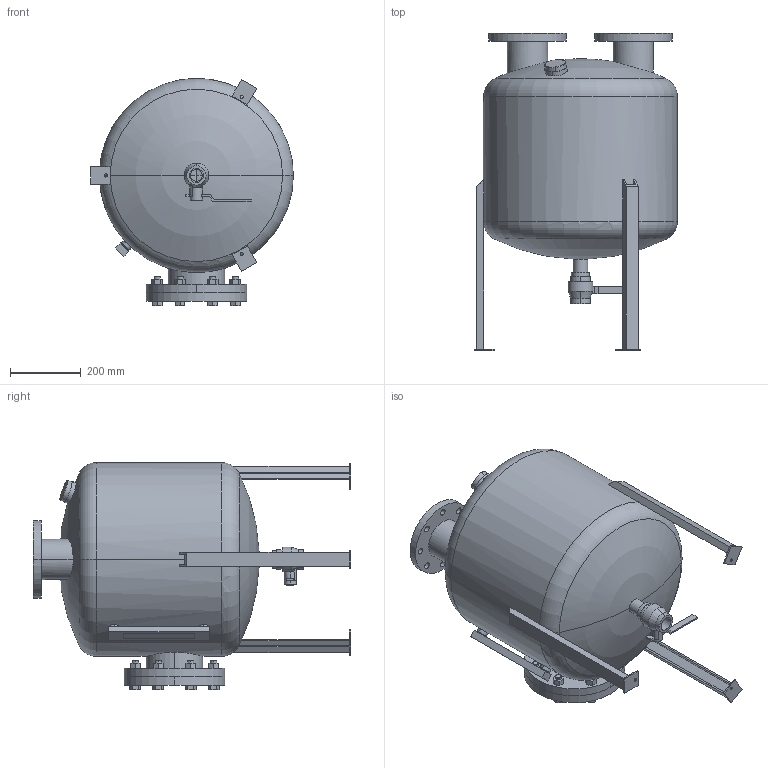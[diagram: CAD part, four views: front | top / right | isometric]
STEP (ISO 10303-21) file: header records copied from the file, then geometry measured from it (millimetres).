
FILE_DESCRIPTION((''),'2;1');
FILE_NAME('95147_C1','2014-02-06T',('L2200051'),('Copyright by Leybold GmbH'),'PRO/ENGINEER BY PARAMETRIC TECHNOLOGY CORPORATION, 2013320','PRO/ENGINEER BY PARAMETRIC TECHNOLOGY CORPORATION, 2013320','');
FILE_SCHEMA(('AUTOMOTIVE_DESIGN { 1 0 10303 214 1 1 1 1 }'));
Length unit declared in the file: millimetre
Products named in the file (1): 95147_C1
Bounding box: 575 x 900.83 x 644 mm (x, y, z)
Surface area: 3387333.5 mm2 (no closed solid volume)
Topology: 0 solids, 41 shells, 399 faces, 1126 edges, 773 vertices
Faces by surface type: plane 228, cylinder 126, cone 21, sphere 8, torus 8, revolution 8
Entity records: 14826 total; most frequent: CARTESIAN_POINT 3477, DIRECTION 2270, ORIENTED_EDGE 1942, EDGE_CURVE 1124, AXIS2_PLACEMENT_3D 798, VERTEX_POINT 773, VECTOR 666, LINE 666
